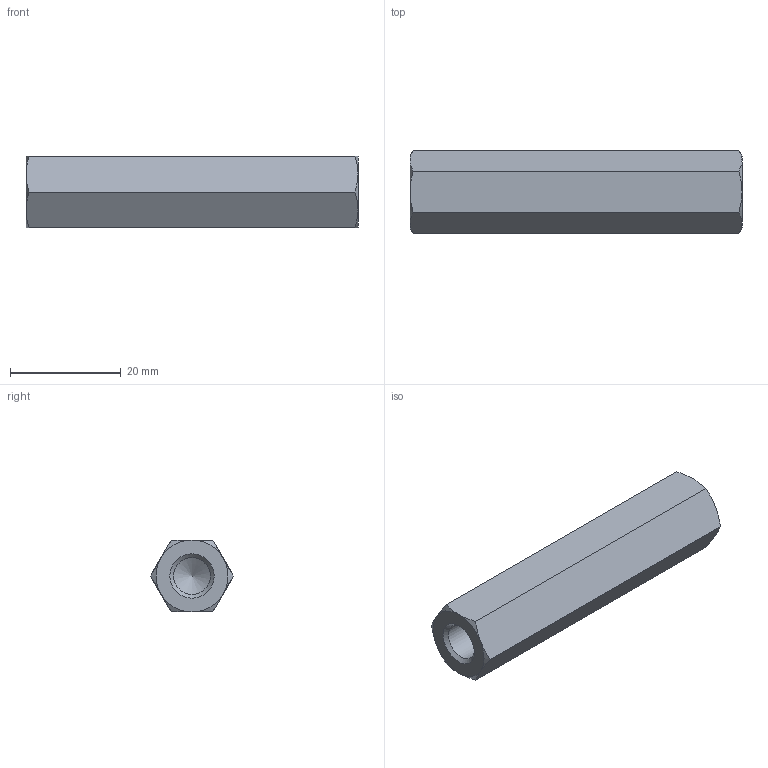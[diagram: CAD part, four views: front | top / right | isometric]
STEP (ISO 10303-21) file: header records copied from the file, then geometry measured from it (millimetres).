
FILE_DESCRIPTION( ( 'STEP AP203' ), '1' );
FILE_NAME( 'C:/Temp/Ganter_Step_05_03_2020/data/3_2/gn6220/gn6220_ni/Stainless Steel-Spacer GN 6220-NI-M8-60-A.stp', '2020-03-13T05:43:06', ( 'License CC BY-ND 4.0' ), ( 'CADENAS' ), ' ', 'PARTsolutions', ' ' );
FILE_SCHEMA( ( 'CONFIG_CONTROL_DESIGN' ) );
Length unit declared in the file: millimetre
Products named in the file (1): _Stainless Steel-Spacer GN 6220-NI-M8-60-A
Bounding box: 60 x 15.01 x 13 mm (x, y, z)
Volume: 7318.4 mm3; surface area: 3820.8 mm2
Topology: 1 solids, 1 shells, 26 faces, 57 edges, 33 vertices
Faces by surface type: cone 16, plane 8, cylinder 2
Full cylindrical faces by diameter (mm): 6.647 x2
Entity records: 782 total; most frequent: CARTESIAN_POINT 243, DIRECTION 96, ORIENTED_EDGE 96, EDGE_CURVE 48, AXIS2_PLACEMENT_3D 45, EDGE_LOOP 32, VERTEX_POINT 32, FACE_OUTER_BOUND 28
